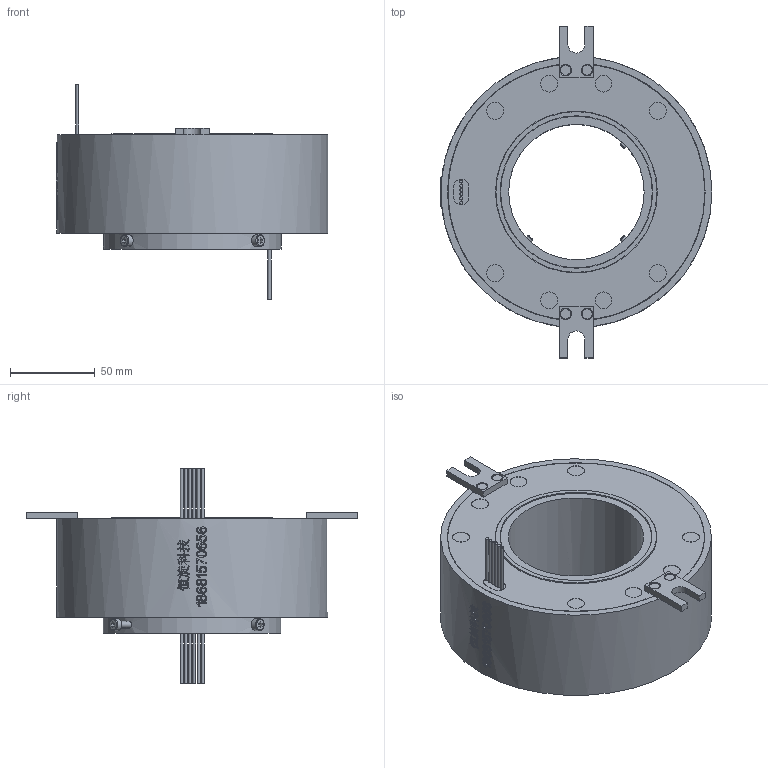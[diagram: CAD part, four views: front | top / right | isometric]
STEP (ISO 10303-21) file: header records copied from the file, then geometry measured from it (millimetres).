
FILE_DESCRIPTION(/* description */ (''),/* implementation_level */ '2;1');
FILE_NAME(/* name */ 'HD80158-0610-3D模型.stp',/* time_stamp */ '2025-09-04T16:03:04+08:00',/* author */ (''),/* organization */ (''),/* preprocessor_version */ 'ST-DEVELOPER v16.7',/* originating_system */ 'SIEMENS PLM Software NX 12.0',/* authorisation */ '');
FILE_SCHEMA (('AUTOMOTIVE_DESIGN { 1 0 10303 214 3 1 1 1 }'));
Length unit declared in the file: millimetre
Products named in the file (1): Admi8ABC6E1720h1
Bounding box: 160.48 x 196 x 127.1 mm (x, y, z)
Volume: 914378 mm3; surface area: 87864.6 mm2
Topology: 1 solids, 5 shells, 767 faces, 2001 edges, 1329 vertices
Faces by surface type: plane 330, extrusion 313, cylinder 77, bspline 30, cone 13, torus 4
Full cylindrical faces by diameter (mm): 1.8 x12, 3 x4, 3.4 x1, 3.5 x4, 4 x7, 6 x4, 7 x4, 10 x8, 80 x1, 89.5 x1, 90 x1, 95 x1, 95.5 x1, 105 x1, 105.5 x1, 151.8 x2, 152 x2, 160 x1
Entity records: 29112 total; most frequent: CARTESIAN_POINT 13062, ORIENTED_EDGE 3812, DIRECTION 2037, EDGE_CURVE 1906, B_SPLINE_CURVE_WITH_KNOTS 1644, VERTEX_POINT 1307, EDGE_LOOP 939, ADVANCED_FACE 767
